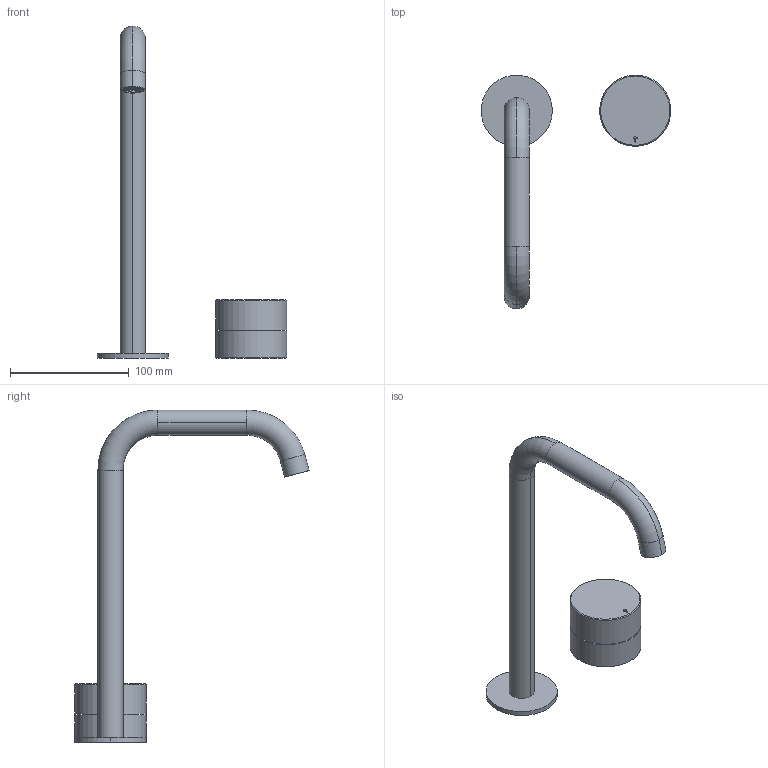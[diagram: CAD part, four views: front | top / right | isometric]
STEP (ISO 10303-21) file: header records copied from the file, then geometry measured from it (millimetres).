
FILE_DESCRIPTION((''),'2;1');
FILE_NAME('L807','2023-10-16T17:27:26',('matteo.follador'),(''),'CREO PARAMETRIC BY PTC INC, 2022424','CREO PARAMETRIC BY PTC INC, 2022424','');
FILE_SCHEMA(('AUTOMOTIVE_DESIGN { 1 0 10303 214 1 1 1 1 }'));
Length unit declared in the file: millimetre
Products named in the file (1): L807
Bounding box: 160 x 197.55 x 280 mm (x, y, z)
Volume: 301754.1 mm3; surface area: 52961.5 mm2
Topology: 2 solids, 2 shells, 491 faces, 1076 edges, 716 vertices
Faces by surface type: cylinder 273, plane 184, extrusion 20, torus 8, cone 4, bspline 2
Entity records: 15224 total; most frequent: CARTESIAN_POINT 3472, DIRECTION 2617, ORIENTED_EDGE 2152, AXIS2_PLACEMENT_3D 1091, EDGE_CURVE 1076, VERTEX_POINT 716, EDGE_LOOP 618, CIRCLE 612
